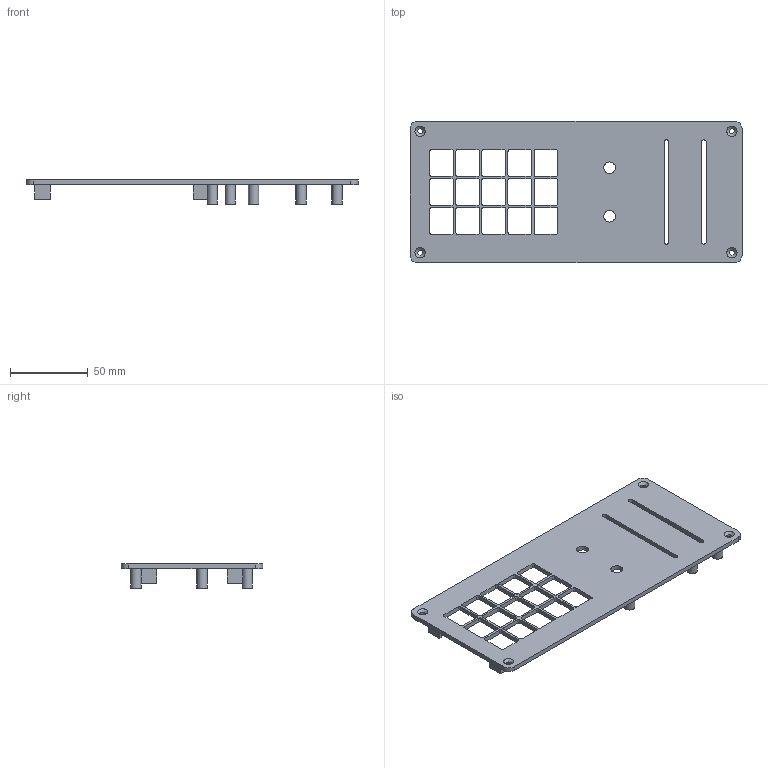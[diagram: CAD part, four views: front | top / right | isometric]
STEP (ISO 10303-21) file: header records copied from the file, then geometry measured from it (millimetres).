
FILE_DESCRIPTION(('Open CASCADE Model'),'2;1');
FILE_NAME('Open CASCADE Shape Model','2026-10-18T12:33:35',('Author'),( 'Open CASCADE'),'Open CASCADE STEP processor 7.9','Open CASCADE 7.9' ,'Unknown');
FILE_SCHEMA(('AUTOMOTIVE_DESIGN { 1 0 10303 214 1 1 1 1 }'));
Length unit declared in the file: millimetre
Products named in the file (1): Open CASCADE STEP translator 7.9 2
Bounding box: 213 x 91 x 15.5 mm (x, y, z)
Volume: 48352.6 mm3; surface area: 39517.7 mm2
Topology: 1 solids, 1 shells, 216 faces, 584 edges, 388 vertices
Faces by surface type: plane 124, cylinder 88, cone 4
Full cylindrical faces by diameter (mm): 3.4 x4, 4 x7, 6.6 x7, 7.5 x2
Entity records: 14630 total; most frequent: CARTESIAN_POINT 2669, DIRECTION 2294, LINE 1372, VECTOR 1372, ORIENTED_EDGE 1168, PCURVE 1168, DEFINITIONAL_REPRESENTATION 1168, EDGE_CURVE 584
